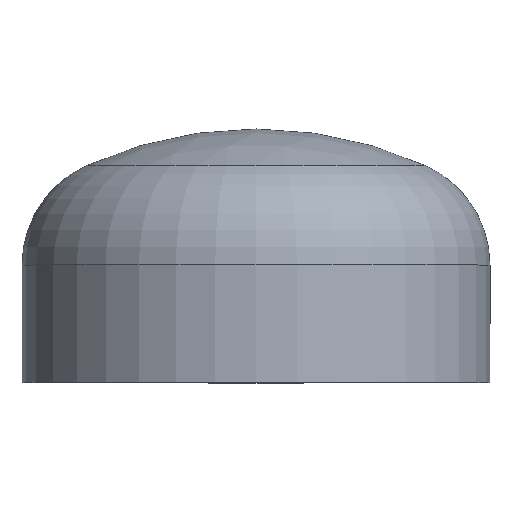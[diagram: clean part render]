
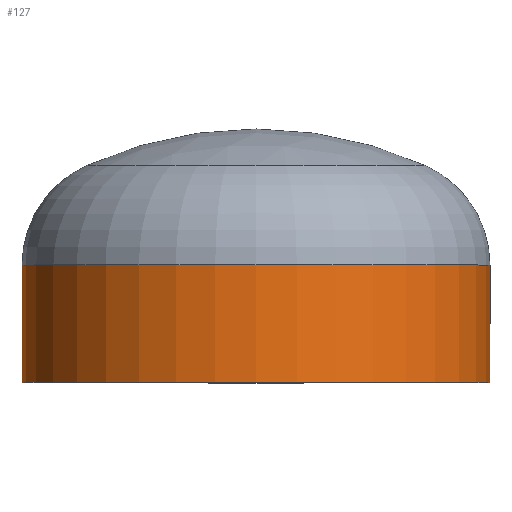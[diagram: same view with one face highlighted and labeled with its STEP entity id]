
A CAD part, top view. The second image highlights one B-rep face of the part: STEP entity #127.
In plain terms, the highlighted cylindrical face has radius 109.55 mm (diameter 219.1 mm), a partial arc.
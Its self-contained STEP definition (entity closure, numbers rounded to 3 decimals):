
#14 = AXIS2_PLACEMENT_3D ( 'NONE', #310, #132, #333 ) ;
#41 = CARTESIAN_POINT ( 'NONE',  ( 109.55, 55., 0. ) ) ;
#46 = VERTEX_POINT ( 'NONE', #278 ) ;
#55 = AXIS2_PLACEMENT_3D ( 'NONE', #181, #107, #167 ) ;
#56 = ORIENTED_EDGE ( 'NONE', *, *, #306, .F. ) ;
#75 = ORIENTED_EDGE ( 'NONE', *, *, #391, .T. ) ;
#102 = VERTEX_POINT ( 'NONE', #287 ) ;
#107 = DIRECTION ( 'NONE',  ( 0., -1., 0. ) ) ;
#116 = AXIS2_PLACEMENT_3D ( 'NONE', #245, #230, #231 ) ;
#124 = ORIENTED_EDGE ( 'NONE', *, *, #193, .T. ) ;
#127 = ADVANCED_FACE ( 'NONE', ( #371 ), #171, .T. ) ;
#132 = DIRECTION ( 'NONE',  ( 0., -1., 0. ) ) ;
#146 = ORIENTED_EDGE ( 'NONE', *, *, #225, .F. ) ;
#158 = CARTESIAN_POINT ( 'NONE',  ( -109.55, 55., 0. ) ) ;
#167 = DIRECTION ( 'NONE',  ( 1., 0., 0. ) ) ;
#171 = CYLINDRICAL_SURFACE ( 'NONE', #116, 109.55 ) ;
#181 = CARTESIAN_POINT ( 'NONE',  ( 0., 0., 0. ) ) ;
#188 = EDGE_LOOP ( 'NONE', ( #75, #124, #56, #146 ) ) ;
#193 = EDGE_CURVE ( 'NONE', #319, #46, #346, .T. ) ;
#197 = DIRECTION ( 'NONE',  ( 0., -1., 0. ) ) ;
#220 = VECTOR ( 'NONE', #259, 1000. ) ;
#224 = CARTESIAN_POINT ( 'NONE',  ( -109.55, 0., 0. ) ) ;
#225 = EDGE_CURVE ( 'NONE', #262, #102, #344, .T. ) ;
#230 = DIRECTION ( 'NONE',  ( 0., -1., 0. ) ) ;
#231 = DIRECTION ( 'NONE',  ( 1., 0., 0. ) ) ;
#236 = CARTESIAN_POINT ( 'NONE',  ( 109.55, 0., 0. ) ) ;
#245 = CARTESIAN_POINT ( 'NONE',  ( 0., 0., 0. ) ) ;
#259 = DIRECTION ( 'NONE',  ( 0., -1., 0. ) ) ;
#262 = VERTEX_POINT ( 'NONE', #41 ) ;
#277 = VECTOR ( 'NONE', #197, 1000. ) ;
#278 = CARTESIAN_POINT ( 'NONE',  ( -109.55, 0., 0. ) ) ;
#287 = CARTESIAN_POINT ( 'NONE',  ( 109.55, 0., 0. ) ) ;
#303 = CIRCLE ( 'NONE', #14, 109.55 ) ;
#306 = EDGE_CURVE ( 'NONE', #102, #46, #325, .T. ) ;
#310 = CARTESIAN_POINT ( 'NONE',  ( 0., 55., 0. ) ) ;
#319 = VERTEX_POINT ( 'NONE', #158 ) ;
#325 = CIRCLE ( 'NONE', #55, 109.55 ) ;
#333 = DIRECTION ( 'NONE',  ( 1., 0., 0. ) ) ;
#344 = LINE ( 'NONE', #236, #277 ) ;
#346 = LINE ( 'NONE', #224, #220 ) ;
#371 = FACE_OUTER_BOUND ( 'NONE', #188, .T. ) ;
#391 = EDGE_CURVE ( 'NONE', #262, #319, #303, .T. ) ;
